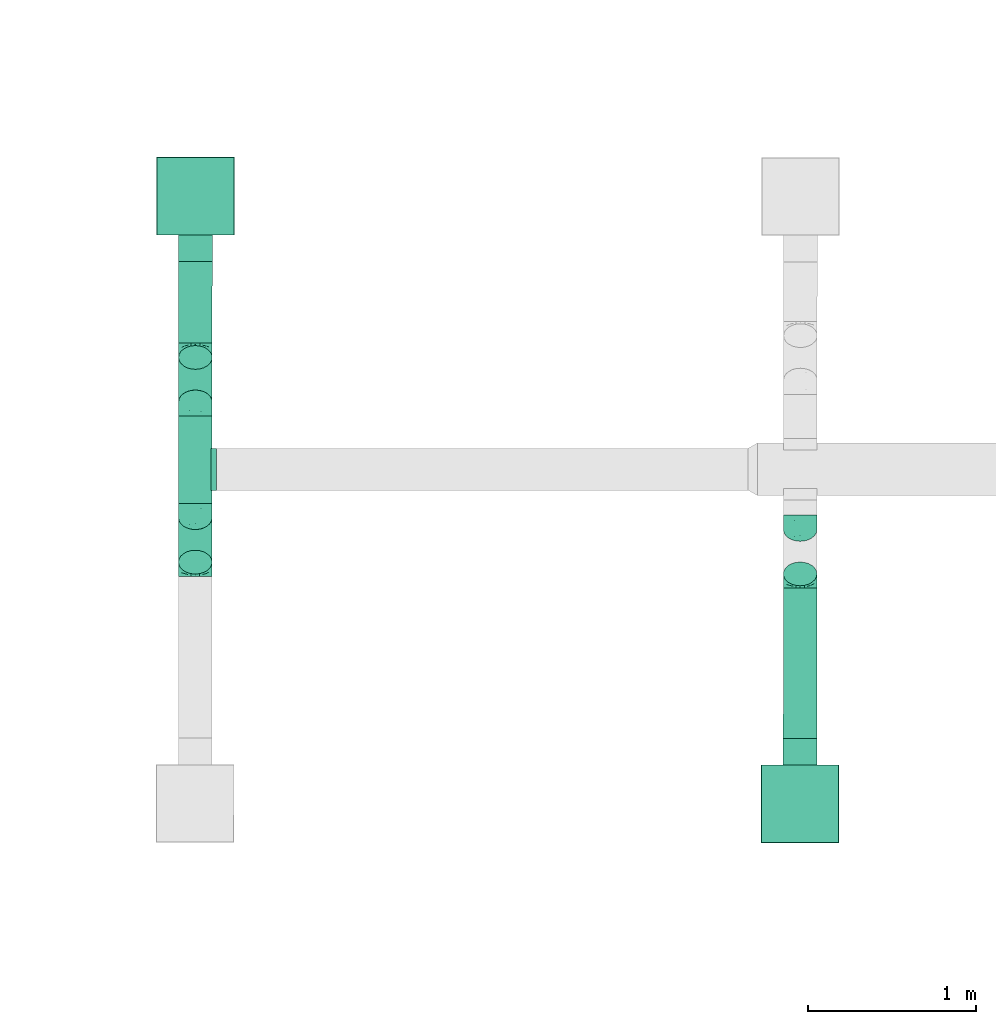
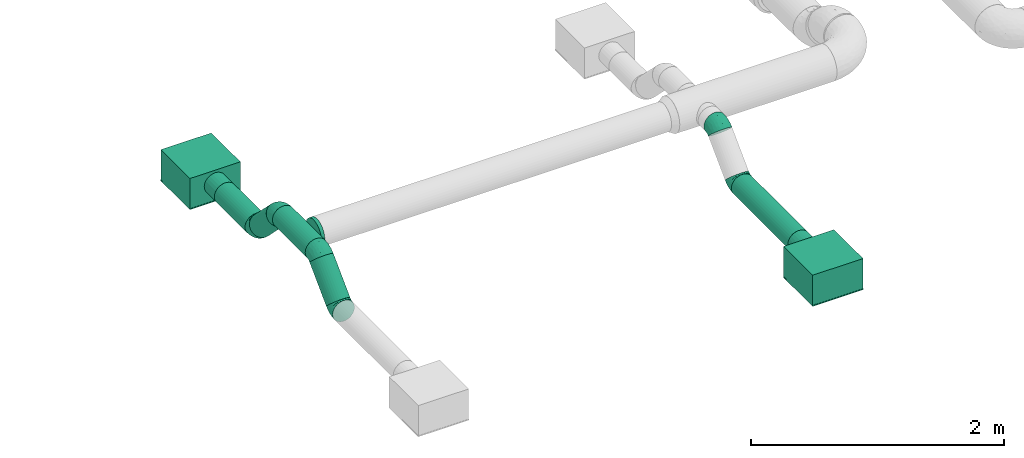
# One storey, part 8 of 63: 7 flow fittings, 5 flow segments, 2 flow terminals.
"""IFC2X3 building model written with IfcOpenShell, lengths in millimetres."""

from ifc_helpers import new_model, entity, si_unit, converted_unit, derived_unit, direction, frame, origin_with_axes, origin_2d_with_axis, place, context, subcontext, project, spatial, hollow_circle, extrude, open_shell, surface_model, source, transform, mapped, type_object, element, save


model = new_model("IFC2X3")

# Units and contexts
model_context = context("Model", 3, precision=0.01, world=frame((0.0, 4.29681676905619e-09, 0.0)), true_north=direction((4.01073788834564e-13, 1.0)))
plan_context = context("Plan", 3, precision=0.01, world=frame((0.0, 4.29681676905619e-09, 0.0)), true_north=direction((4.01073788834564e-13, 1.0)))
body_context = subcontext(model_context, "Body", "Model", "MODEL_VIEW")
ifc_project = project(units=[converted_unit("PLANEANGLEUNIT", "DEGREE", entity("IfcPositiveLengthMeasure", 0.0174532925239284), si_unit("PLANEANGLEUNIT", "RADIAN"), dimensions=[0, 0, 0, 0, 0, 0, 0]), si_unit("AREAUNIT", "SQUARE_METRE"), si_unit("LENGTHUNIT", "METRE", prefix="MILLI"), si_unit("MASSUNIT", "GRAM", prefix="KILO"), si_unit("POWERUNIT", "WATT"), si_unit("PRESSUREUNIT", "PASCAL"), si_unit("FORCEUNIT", "NEWTON", prefix="KILO"), si_unit("ELECTRICVOLTAGEUNIT", "VOLT"), si_unit("ELECTRICCURRENTUNIT", "AMPERE"), si_unit("THERMODYNAMICTEMPERATUREUNIT", "DEGREE_CELSIUS"), si_unit("TIMEUNIT", "SECOND"), si_unit("VOLUMEUNIT", "CUBIC_METRE"), derived_unit("LINEARVELOCITYUNIT", [(si_unit("LENGTHUNIT", "METRE"), 1), (si_unit("TIMEUNIT", "SECOND"), -1)]), derived_unit("VOLUMETRICFLOWRATEUNIT", [(si_unit("VOLUMEUNIT", "CUBIC_METRE"), 1), (si_unit("TIMEUNIT", "SECOND"), -1)]), derived_unit("THERMALTRANSMITTANCEUNIT", [(si_unit("POWERUNIT", "WATT"), 1), (si_unit("THERMODYNAMICTEMPERATUREUNIT", "KELVIN"), -1), (si_unit("AREAUNIT", "SQUARE_METRE"), -1)]), derived_unit("SOUNDPRESSUREUNIT", [(si_unit("PRESSUREUNIT", "PASCAL"), 1)])], contexts=[model_context, plan_context])

# Site, building, storey
site_placement = place(None, frame((0.0, -4.29681676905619e-09, 0.0), z_axis=(0.0, 0.0, 1.0), x_axis=(1.0, 0.0, 0.0)))
site = spatial("IfcSite", under=ifc_project, at=site_placement, CompositionType="ELEMENT")
building_placement = place(site_placement, frame((0.0, 4.29681676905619e-09, 0.0), z_axis=(0.0, 0.0, 1.0), x_axis=(1.0, 0.0, 0.0)))
building = spatial("IfcBuilding", under=site, at=building_placement, Name="mc-building", CompositionType="ELEMENT")
storey_placement = place(building_placement, frame((0.0, 0.0, 210900.0), z_axis=(0.0, 0.0, 1.0), x_axis=(1.0, 0.0, 0.0)))
storey = spatial("IfcBuildingStorey", under=building, at=storey_placement, Name="Nivå F", CompositionType="ELEMENT", Elevation=210900.0)

# Flow fittings
duct_fitting_type_1 = type_object("IfcDuctFittingType", Name="magicirc_elbow_short_001", PredefinedType="BEND")
shared_shape_1 = source(origin_with_axes(), body_context, "Body", "SurfaceModel", [
    surface_model("IfcShellBasedSurfaceModel", [(-49.70563, 50.0, -86.60254), (-49.70563, 25.8819, -96.59259), (-49.70563, 70.71068, -70.71068), (-49.70563, 96.59259, -25.8819), (-49.70563, 86.60254, -50.0), (-49.70563, 86.60254, 50.0), (-49.70563, 96.59259, 25.8819), (-49.70563, 25.8819, 96.59259), (-49.70563, 50.0, 86.60254), (-49.70563, 70.71068, 70.71068), (-49.70563, -25.8819, 96.59259), (-49.70563, 0.0, 100.0), (-49.70563, 100.0, 0.0), (12.37742, -29.88175, 90.64522), (37.12404, -18.70607, 89.97421), (4.68854, -11.31914, 97.51858), (-15.97928, 38.57739, 94.78597), (-33.08073, 79.86395, 64.3352), (-38.64634, 93.30051, 41.23913), (-23.56301, 62.37217, 82.35825), (22.87885, -55.23445, 71.73393), (28.07272, 6.98114, 98.51039), (7.39001, 23.69873, 99.67584), (-26.09006, 96.38443, 50.0), (16.84592, 53.44845, 96.59259), (-33.15408, 103.44845, 25.8819), (-0.20815, 70.50252, 86.60254), (-49.70563, 0.0, -100.0), (-21.98306, 11.532, -99.67584), (4.68854, -11.31915, -97.51858), (6.95764, 23.32334, -99.68416), (-15.97928, 38.57738, -94.78597), (-0.20815, 70.50252, -86.60254), (16.84592, 53.44845, -96.59259), (60.35471, -50.93633, -55.32131), (28.49827, -69.68635, -52.39492), (22.87886, -55.23445, -71.73393), (28.07272, 6.98113, -98.51039), (-49.70565, -96.59259, -25.8819), (-49.70565, -100.0, 0.0), (-49.70565, -86.60254, -50.0), (-14.85282, 85.14719, -70.71068), (-26.09007, 96.38443, -50.0), (-33.1541, 103.44846, -25.8819), (-24.86597, -97.5535, 0.0), (-6.78576, -95.77276, 0.0), (-18.13184, -91.89202, 33.47276), (-13.02349, -39.47786, 89.97421), (-18.231, -62.02139, 76.22982), (-21.41192, 11.5723, 99.68416), (-49.70565, -86.60254, 50.0), (-49.70565, -96.59259, 25.8819), (22.49479, -82.45996, 31.38069), (50.71647, -68.4272, 35.42053), (29.12437, -69.42701, 52.3949), (13.84949, -89.51313, 0.0), (34.48473, -83.25349, 0.0), (12.37743, -29.88176, -90.64522), (-13.02349, -39.47786, -89.97421), (-42.05198, 101.52241, 0.0), (-35.56351, 105.85786, 0.0), (-38.64635, 93.30051, -41.23913), (37.12406, -18.70605, -89.97421), (1.72867, -92.12319, -18.52111), (-33.08075, 79.86395, -64.3352), (-27.44224, 60.76535, -82.35825), (-24.78683, -14.914, 98.51039), (-49.70565, -70.71068, -70.71068), (-6.65981, -78.69465, -55.32131), (-24.78683, -14.91401, -98.51039), (-49.70563, -50.0, -86.60254), (-49.70563, -25.8819, -96.59259), (-49.70563, -70.71068, 70.71068), (-49.70563, -50.0, 86.60254), (35.14719, 35.1472, -100.0), (103.44846, -33.15406, 25.8819), (96.38444, -26.09004, -50.0), (53.44846, 16.84593, -96.59259), (85.14719, -14.8528, -70.71068), (70.50253, -0.20814, -86.60254), (105.85787, -35.56347, 0.0), (103.44846, -33.15406, -25.8819), (-14.85282, 85.14719, 70.71068), (85.14719, -14.8528, 70.71068), (96.38444, -26.09004, 50.0), (70.50253, -0.20814, 86.60254), (53.44846, 16.84593, 96.59259), (35.14719, 35.1472, 100.0), (-6.6598, -78.69465, 55.32131), (42.49431, -77.9055, 18.20626), (72.51983, -62.9233, 0.0), (86.56365, -51.39784, 0.0), (63.91858, -66.36329, 18.52111), (77.79861, -52.15632, 33.47277), (60.35471, -50.93634, 55.32131), (56.74699, -30.96449, 76.22981), (53.50228, -73.08841, 0.0), (-18.13182, -91.89201, -33.47277), (77.79861, -52.15632, -33.47277), (-18.23098, -62.02139, -76.22982), (42.40177, -74.21421, -31.38069), (12.52339, -84.24729, -35.42053), (25.03951, -85.13552, -18.20627), (56.747, -30.96448, -76.22982)], [open_shell([[[0, 1, 2]], [[3, 4, 2]], [[5, 6, 7]], [[7, 8, 9]], [[5, 7, 9]], [[10, 11, 7]], [[6, 12, 3]], [[13, 14, 15]], [[8, 7, 16]], [[17, 5, 9]], [[6, 5, 18]], [[19, 8, 16]], [[13, 20, 14]], [[15, 21, 22]], [[17, 23, 18]], [[16, 22, 24]], [[25, 18, 23]], [[24, 26, 16]], [[26, 19, 16]], [[8, 19, 9]], [[19, 17, 9]], [[14, 21, 15]], [[6, 18, 25]], [[17, 18, 5]], [[27, 1, 28]], [[29, 28, 30]], [[31, 28, 1]], [[0, 31, 1]], [[32, 33, 31]], [[31, 33, 30]], [[30, 28, 31]], [[34, 35, 36]], [[30, 37, 29]], [[38, 39, 40]], [[41, 42, 43]], [[44, 45, 46]], [[47, 48, 20]], [[15, 22, 49]], [[46, 50, 51]], [[46, 51, 44]], [[52, 53, 54]], [[49, 22, 16]], [[51, 39, 44]], [[46, 55, 52]], [[15, 47, 13]], [[20, 13, 47]], [[55, 46, 45]], [[55, 56, 52]], [[57, 36, 58]], [[59, 60, 43]], [[43, 42, 61]], [[62, 57, 29]], [[45, 44, 63]], [[42, 41, 64]], [[65, 64, 41]], [[64, 61, 42]], [[55, 45, 63]], [[44, 39, 38]], [[36, 57, 62]], [[58, 29, 57]], [[15, 66, 47]], [[49, 66, 15]], [[67, 68, 40]], [[29, 69, 28]], [[58, 69, 29]], [[27, 67, 1]], [[40, 2, 1]], [[2, 40, 3]], [[70, 67, 71]], [[67, 27, 71]], [[40, 1, 67]], [[40, 39, 3]], [[39, 6, 3]], [[7, 6, 39]], [[10, 7, 39]], [[72, 73, 50]], [[51, 50, 73]], [[73, 10, 51]], [[51, 10, 39]], [[74, 75, 76]], [[41, 33, 32]], [[33, 75, 74]], [[33, 41, 75]], [[77, 78, 79]], [[77, 74, 78]], [[76, 80, 81]], [[78, 74, 76]], [[76, 75, 80]], [[41, 43, 23]], [[25, 23, 43]], [[23, 24, 41]], [[82, 26, 24]], [[82, 24, 23]], [[41, 24, 75]], [[75, 83, 84]], [[83, 75, 85]], [[75, 86, 85]], [[75, 24, 86]], [[24, 87, 86]], [[43, 60, 25]], [[88, 50, 46]], [[88, 52, 54]], [[73, 48, 47]], [[72, 50, 88]], [[66, 11, 10]], [[7, 11, 49]], [[10, 73, 47]], [[17, 19, 82]], [[16, 7, 49]], [[73, 72, 48]], [[56, 89, 52]], [[59, 6, 25]], [[90, 91, 92]], [[59, 12, 6]], [[53, 93, 94]], [[66, 49, 11]], [[88, 46, 52]], [[72, 88, 48]], [[86, 21, 14]], [[94, 84, 83]], [[85, 86, 14]], [[93, 84, 94]], [[83, 85, 95]], [[14, 95, 85]], [[93, 91, 75]], [[86, 87, 21]], [[53, 92, 93]], [[60, 59, 25]], [[87, 24, 22]], [[95, 20, 94]], [[82, 19, 26]], [[84, 93, 75]], [[20, 95, 14]], [[89, 96, 92]], [[94, 83, 95]], [[20, 48, 88]], [[82, 23, 17]], [[54, 94, 20]], [[94, 54, 53]], [[88, 54, 20]], [[47, 66, 10]], [[22, 21, 87]], [[92, 53, 89]], [[53, 52, 89]], [[96, 89, 56]], [[96, 90, 92]], [[93, 92, 91]], [[91, 80, 75]], [[78, 76, 34]], [[77, 79, 62]], [[69, 71, 27]], [[4, 61, 64]], [[32, 65, 41]], [[31, 0, 65]], [[0, 2, 65]], [[33, 74, 30]], [[61, 3, 43]], [[68, 97, 40]], [[98, 81, 91]], [[97, 44, 38]], [[99, 70, 58]], [[100, 101, 35]], [[99, 67, 70]], [[40, 97, 38]], [[101, 97, 68]], [[70, 71, 58]], [[102, 55, 63]], [[99, 36, 68]], [[56, 102, 100]], [[3, 12, 59]], [[68, 67, 99]], [[32, 31, 65]], [[34, 100, 35]], [[69, 58, 71]], [[4, 64, 2]], [[62, 29, 37]], [[36, 62, 103]], [[62, 79, 103]], [[98, 76, 81]], [[74, 77, 37]], [[98, 34, 76]], [[64, 65, 2]], [[98, 91, 90]], [[101, 63, 97]], [[100, 34, 98]], [[79, 78, 103]], [[37, 30, 74]], [[36, 103, 34]], [[43, 3, 59]], [[36, 99, 58]], [[78, 34, 103]], [[35, 68, 36]], [[97, 63, 44]], [[68, 35, 101]], [[28, 69, 27]], [[62, 37, 77]], [[63, 101, 102]], [[101, 100, 102]], [[98, 96, 100]], [[55, 102, 56]], [[3, 61, 4]], [[81, 80, 91]], [[96, 98, 90]], [[96, 56, 100]]])]),
])
for number, where, z_axis, x_axis, name in (
    (1, (523302.11557, 446275.48076, 3935.01186999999), (-0.999999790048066, 0.000647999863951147, 0.0), (-0.000647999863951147, -0.999999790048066, 0.0), "magicirc_elbow_short_001"),
    (2, (523301.28092, 444986.94213, 3935.01186999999), (0.999999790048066, -0.000647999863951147, 0.0), (0.000647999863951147, 0.999999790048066, 0.0), "magicirc_elbow_short_001"),
    (3, (523301.49791, 445321.93009, 4270.0), (-0.999999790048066, 0.000647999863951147, -3.79470760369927e-19), (0.000458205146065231, 0.707106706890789, 0.707106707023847), "magicirc_elbow_short_001"),
    (4, (523301.89858, 445940.49279, 4270.0), (0.999999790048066, -0.000647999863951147, -3.79470760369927e-19), (-0.000458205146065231, -0.707106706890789, 0.707106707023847), "magicirc_elbow_short_001"),
    (5, (526901.27657, 444916.95747, 3935.01186999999), (0.999999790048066, -0.000647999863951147, 0.0), (0.000647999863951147, 0.999999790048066, 0.0), "magicirc_elbow_short_001"),
    (6, (526901.46737, 445251.94566, 4270.0), (-0.99999988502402, 0.000423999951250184, 0.00022399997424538), (0.000458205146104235, 0.707106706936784, 0.707106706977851), "magicirc_elbow_short_001"),
):
    element("IfcFlowFitting", number, at=place(storey_placement, frame(where, z_axis=z_axis, x_axis=x_axis)), inside=storey, type_object=duct_fitting_type_1, Name=name, context=body_context, shape_type="MappedRepresentation", body=[
        mapped(shared_shape_1, transform((0.0, 0.0, 0.0), scale=1.0)),
    ])
duct_fitting_type_2 = type_object("IfcDuctFittingType", Name="magicirc_tapoutlet_001", PredefinedType="CONNECTOR")
shared_shape_2 = source(origin_with_axes(), body_context, "Body", "SurfaceModel", [
    surface_model("IfcShellBasedSurfaceModel", [(25.0, 62.5, -108.25318), (25.0, 125.0, 0.0), (25.0, 32.35238, -120.74073), (25.0, -88.38835, -88.38835), (25.0, 0.0, -125.0), (25.0, -120.74073, 32.35238), (25.0, -62.5, -108.25318), (25.0, -32.35238, -120.74073), (25.0, -108.25318, -62.5), (25.0, -120.74073, -32.35238), (25.0, -125.0, 0.0), (25.0, 108.25318, -62.5), (25.0, 120.74073, -32.35238), (25.0, 120.74073, 32.35238), (25.0, 108.25318, 62.5), (25.0, 88.38835, 88.38835), (25.0, 32.35238, 120.74073), (25.0, 62.5, 108.25318), (25.0, -62.5, 108.25318), (25.0, -88.38835, 88.38835), (25.0, -108.25318, 62.5), (25.0, 0.0, 125.0), (25.0, -32.35238, 120.74073), (0.0, 0.0, 125.0), (0.0, 32.35238, 120.74073), (0.0, 62.5, 108.25318), (0.0, 88.38835, 88.38835), (0.0, 108.25318, 62.5), (0.0, 120.74073, 32.35238), (0.0, 125.0, 0.0), (0.0, 120.74073, -32.35238), (0.0, 108.25318, -62.5), (25.0, 88.38835, -88.38835), (0.0, 88.38835, -88.38835), (0.0, 0.0, -125.0), (0.0, 32.35238, -120.74073), (0.0, 62.5, -108.25318), (0.0, -32.35238, -120.74073), (0.0, -62.5, -108.25318), (0.0, -88.38835, -88.38835), (0.0, -108.25318, -62.5), (0.0, -120.74073, -32.35238), (0.0, -125.0, 0.0), (0.0, -120.74073, 32.35238), (0.0, -108.25318, 62.5), (0.0, -88.38835, 88.38835), (0.0, -62.5, 108.25318), (0.0, -32.35238, 120.74073), (-6.17869, 0.0, -125.0), (-6.17869, -32.35238, -120.74073), (-6.17869, 32.35238, -120.74073), (-6.17869, 120.74073, 32.35238), (-6.17869, 62.5, -108.25318), (-6.17869, 88.38835, -88.38835), (-6.17869, 108.25318, -62.5), (-6.17869, -125.0, 0.0), (-6.17869, -120.74073, 32.35238), (-6.17869, -88.38835, -88.38835), (-6.17869, -62.5, -108.25318), (-6.17869, -120.74073, -32.35238), (-6.17869, -108.25318, -62.5), (-6.17869, 120.74073, -32.35238), (-6.17869, 108.25318, 62.5), (-6.17869, 62.5, 108.25318), (-6.17869, 32.35238, 120.74073), (-6.17869, 88.38835, 88.38835), (-6.17869, 0.0, 125.0), (-6.17869, -108.25318, 62.5), (-6.17869, -88.38835, 88.38835), (-6.17869, -32.35238, 120.74073), (-6.17869, -62.5, 108.25318), (-6.17869, 125.0, 0.0)], [open_shell([[[0, 1, 2]], [[3, 4, 5]], [[4, 3, 6]], [[6, 7, 4]], [[8, 5, 9]], [[5, 10, 9]], [[1, 11, 12]], [[13, 14, 4]], [[4, 14, 15]], [[16, 4, 17]], [[4, 15, 17]], [[18, 4, 16]], [[19, 20, 4]], [[16, 21, 22]], [[23, 21, 16]], [[24, 16, 17]], [[23, 16, 24]], [[25, 15, 26]], [[25, 24, 17]], [[15, 25, 17]], [[27, 14, 13]], [[28, 13, 1]], [[26, 14, 27]], [[28, 27, 13]], [[29, 28, 1]], [[14, 26, 15]], [[29, 1, 12]], [[30, 12, 11]], [[29, 12, 30]], [[31, 32, 33]], [[31, 30, 11]], [[32, 31, 11]], [[2, 4, 34]], [[0, 2, 35]], [[33, 0, 36]], [[34, 35, 2]], [[0, 35, 36]], [[0, 33, 32]], [[34, 4, 7]], [[37, 7, 6]], [[34, 7, 37]], [[38, 3, 39]], [[38, 37, 6]], [[3, 38, 6]], [[40, 8, 9]], [[41, 9, 10]], [[39, 8, 40]], [[41, 40, 9]], [[42, 41, 10]], [[8, 39, 3]], [[42, 10, 5]], [[43, 5, 20]], [[42, 5, 43]], [[44, 19, 45]], [[44, 43, 20]], [[19, 44, 20]], [[46, 18, 22]], [[47, 22, 21]], [[45, 18, 46]], [[47, 46, 22]], [[23, 47, 21]], [[18, 45, 19]], [[8, 3, 5]], [[10, 9, 5]], [[19, 4, 18]], [[16, 22, 18]], [[1, 13, 4]], [[2, 1, 4]], [[32, 11, 1]], [[32, 1, 0]], [[4, 6, 7]], [[4, 14, 17]], [[17, 14, 15]], [[4, 16, 18]], [[4, 20, 5]], [[14, 4, 13]], [[17, 16, 4]], [[4, 19, 20]], [[4, 18, 19]], [[21, 22, 16]], [[4, 1, 13]], [[48, 49, 50]], [[50, 51, 52]], [[53, 51, 54]], [[52, 51, 53]], [[50, 55, 56]], [[57, 55, 58]], [[50, 49, 58]], [[59, 55, 60]], [[57, 60, 55]], [[58, 55, 50]], [[61, 54, 51]], [[62, 51, 50]], [[63, 62, 50]], [[63, 50, 64]], [[65, 62, 63]], [[66, 64, 50]], [[56, 67, 50]], [[67, 68, 50]], [[69, 66, 70]], [[68, 70, 66]], [[50, 68, 66]], [[71, 61, 51]], [[66, 23, 24]], [[64, 24, 25]], [[66, 24, 64]], [[63, 26, 65]], [[63, 64, 25]], [[26, 63, 25]], [[62, 27, 28]], [[51, 28, 29]], [[65, 27, 62]], [[51, 62, 28]], [[71, 51, 29]], [[27, 65, 26]], [[71, 29, 30]], [[61, 30, 31]], [[71, 30, 61]], [[54, 33, 53]], [[54, 61, 31]], [[33, 54, 31]], [[35, 34, 48]], [[36, 35, 50]], [[53, 36, 52]], [[48, 50, 35]], [[36, 50, 52]], [[36, 53, 33]], [[48, 34, 37]], [[49, 37, 38]], [[48, 37, 49]], [[58, 39, 57]], [[58, 49, 38]], [[39, 58, 38]], [[60, 40, 41]], [[59, 41, 42]], [[57, 40, 60]], [[59, 60, 41]], [[55, 59, 42]], [[40, 57, 39]], [[55, 42, 43]], [[56, 43, 44]], [[55, 43, 56]], [[67, 45, 68]], [[67, 56, 44]], [[45, 67, 44]], [[70, 46, 47]], [[69, 47, 23]], [[68, 46, 70]], [[69, 70, 47]], [[66, 69, 23]], [[46, 68, 45]]])]),
])
flow_fitting_placement = place(storey_placement, frame((523401.66171, 445574.77905, 4270.0), z_axis=(0.0, 0.0, -1.0), x_axis=(0.999999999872, 1.5999999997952e-05, 0.0)))
element("IfcFlowFitting", 7, at=flow_fitting_placement, inside=storey, type_object=duct_fitting_type_2, Name="magicirc_tapoutlet_001", context=body_context, shape_type="MappedRepresentation", body=[
    mapped(shared_shape_2, transform((0.0, 0.0, 0.0), scale=1.0)),
])

# Flow segments
duct_segment_type = type_object("IfcDuctSegmentType", Name="KK002T - Spiro kanaler, Forsinket stål, korte bend", PredefinedType="RIGIDSEGMENT")
shared_shape_3 = source(origin_with_axes(), body_context, "Body", "SweptSolid", [
    extrude(hollow_circle(Radius=100.0, WallThickness=2.0, at=origin_2d_with_axis()), frame((0.0, 0.0, 0.0), z_axis=(1.0, 0.0, 0.0), x_axis=(0.0, 1.0, 0.0)), (0.0, 0.0, 1.0), 485.2),
])
flow_segment_1_placement = place(storey_placement, frame((523302.46205, 446810.39382, 3935.01186999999), z_axis=(0.0, 0.0, 1.0), x_axis=(-0.000647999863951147, -0.999999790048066, 0.0)))
element("IfcFlowSegment", 8, at=flow_segment_1_placement, inside=storey, type_object=duct_segment_type, Name="KK002T - Spiro kanaler, Forsinket stål, korte bend", context=body_context, shape_type="MappedRepresentation", body=[
    mapped(shared_shape_3, transform((0.0, 0.0, 0.0), scale=1.0)),
])
shared_shape_4 = source(origin_with_axes(), body_context, "Body", "SweptSolid", [
    extrude(hollow_circle(Radius=100.0, WallThickness=2.0, at=origin_2d_with_axis()), frame((0.0, 0.0, 0.0), z_axis=(1.0, 0.0, 0.0), x_axis=(0.0, 1.0, 0.0)), (0.0, 0.0, 1.0), 374.3),
])
for number, where, z_axis, x_axis in (
    (9, (523302.0928, 446240.33358, 3970.15906999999), (0.00045799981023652, 0.707106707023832, 0.707106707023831), (-0.000457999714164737, -0.707106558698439, 0.707106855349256)),
    (10, (523301.30369, 445022.08931, 3970.15906999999), (-0.00045799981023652, -0.707106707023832, 0.707106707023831), (0.000457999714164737, 0.707106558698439, 0.707106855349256)),
):
    element("IfcFlowSegment", number, at=place(storey_placement, frame(where, z_axis=z_axis, x_axis=x_axis)), inside=storey, type_object=duct_segment_type, Name="KK002T - Spiro kanaler, Forsinket stål, korte bend", context=body_context, shape_type="MappedRepresentation", body=[
        mapped(shared_shape_4, transform((0.0, 0.0, 0.0), scale=1.0)),
    ])
shared_shape_5 = source(origin_with_axes(), body_context, "Body", "SweptSolid", [
    extrude(hollow_circle(Radius=100.0, WallThickness=2.0, at=origin_2d_with_axis()), frame((0.0, 0.0, 0.0), z_axis=(1.0, 0.0, 0.0), x_axis=(0.0, 1.0, 0.0)), (0.0, 0.0, 1.0), 519.2),
])
flow_segment_2_placement = place(storey_placement, frame((523301.53011, 445371.63572, 4270.0), z_axis=(0.0, 0.0, 1.0), x_axis=(0.000647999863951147, 0.999999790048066, 0.0)))
element("IfcFlowSegment", 11, at=flow_segment_2_placement, inside=storey, type_object=duct_segment_type, Name="KK002T - Spiro kanaler, Forsinket stål, korte bend", context=body_context, shape_type="MappedRepresentation", body=[
    mapped(shared_shape_5, transform((0.0, 0.0, 0.0), scale=1.0)),
])
shared_shape_6 = source(origin_with_axes(), body_context, "Body", "SweptSolid", [
    extrude(hollow_circle(Radius=100.0, WallThickness=2.0, at=origin_2d_with_axis()), frame((0.0, 0.0, 0.0), z_axis=(1.0, 0.0, 0.0), x_axis=(0.0, 1.0, 0.0)), (0.0, 0.0, 1.0), 893.6),
])
flow_segment_3_placement = place(storey_placement, frame((526900.66553, 443973.6217, 3935.01186999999), z_axis=(0.0, 0.0, 1.0), x_axis=(0.000647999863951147, 0.999999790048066, 0.0)))
element("IfcFlowSegment", 12, at=flow_segment_3_placement, inside=storey, type_object=duct_segment_type, Name="KK002T - Spiro kanaler, Forsinket stål, korte bend", context=body_context, shape_type="MappedRepresentation", body=[
    mapped(shared_shape_6, transform((0.0, 0.0, 0.0), scale=1.0)),
])

# Flow terminals
air_terminal_type = type_object("IfcAirTerminalType", Name="NS19-H-S-2-200 - 4-way", PredefinedType="NOTDEFINED")
shared_shape_7 = source(origin_with_axes(), body_context, "Body", "SurfaceModel", [
    surface_model("IfcShellBasedSurfaceModel", [(-231.99999, 231.99999, 0.0), (-231.99999, -231.99999, 0.0), (231.99999, -231.99999, 0.0), (231.99999, 231.99999, 0.0), (231.99999, 231.99999, -10.0), (231.99999, -231.99999, -10.0), (-231.99999, -231.99999, -10.0), (-231.99999, 231.99999, -10.0), (-230.0, 230.0, 289.99999), (-230.0, -230.0, 289.99999), (230.0, -230.0, 289.99999), (230.0, 230.0, 289.99999), (230.0, 230.0, 0.0), (230.0, -230.0, 0.0), (-230.0, -230.0, 0.0), (-230.0, 230.0, 0.0), (-230.0, 50.0, 78.39746), (-230.0, 70.71068, 94.28932), (-230.0, 49.9, 78.57067), (-230.0, 25.83014, 68.6006), (-230.0, 0.0, 65.2), (-230.0, 25.8819, 68.40742), (-230.0, 0.0, 65.0), (-230.0, 70.56926, 94.43075), (-230.0, 96.59259, 139.1181), (-230.0, 99.8, 164.99999), (-230.0, 96.39939, 139.16986), (-230.0, 100.0, 164.99999), (-230.0, 86.60254, 115.0), (-230.0, 86.42934, 115.1), (-230.0, -25.83014, 68.6006), (-230.0, -25.8819, 68.40742), (-230.0, -49.9, 78.57067), (-230.0, -70.71068, 94.28932), (-230.0, -50.0, 78.39746), (-230.0, -70.56926, 94.43075), (-230.0, -86.42934, 115.1), (-230.0, -86.60254, 115.0), (-230.0, -96.39939, 139.16986), (-230.0, -96.59259, 139.1181), (-230.0, -99.8, 164.99999), (-230.0, -100.0, 164.99999), (-230.0, 96.59259, 190.8819), (-230.0, 96.39939, 190.83014), (-230.0, 86.42934, 214.9), (-230.0, 86.60254, 214.99999), (-230.0, 70.56926, 235.56925), (-230.0, 70.71068, 235.71069), (-230.0, 50.0, 251.60254), (-230.0, 49.9, 251.42933), (-230.0, 25.83014, 261.3994), (-230.0, 25.8819, 261.59259), (-230.0, 0.0, 264.80001), (-230.0, 0.0, 264.99999), (-230.0, -86.60254, 214.99999), (-230.0, -86.42934, 214.9), (-230.0, -70.71068, 235.71069), (-230.0, -70.56926, 235.56925), (-230.0, -96.59259, 190.8819), (-230.0, -96.39939, 190.83014), (-230.0, -25.83014, 261.3994), (-230.0, -25.8819, 261.59259), (-230.0, -49.9, 251.42933), (-230.0, -50.0, 251.60254), (-390.0, 50.0, 251.60254), (-390.0, 70.71068, 235.71069), (-390.0, 49.9, 251.42933), (-390.0, 25.83014, 261.3994), (-390.0, 0.0, 264.80001), (-390.0, 25.8819, 261.59259), (-390.0, 0.0, 264.99999), (-390.0, 70.56926, 235.56925), (-390.0, 96.59259, 190.8819), (-390.0, 99.8, 164.99999), (-390.0, 96.39939, 190.83014), (-390.0, 100.0, 164.99999), (-390.0, 86.60254, 214.99999), (-390.0, 86.42934, 214.9), (-390.0, -25.83014, 261.3994), (-390.0, -25.8819, 261.59259), (-390.0, -49.9, 251.42933), (-390.0, -70.71068, 235.71069), (-390.0, -50.0, 251.60254), (-390.0, -70.56926, 235.56925), (-390.0, -86.42934, 214.9), (-390.0, -86.60254, 214.99999), (-390.0, -96.39939, 190.83014), (-390.0, -96.59259, 190.8819), (-390.0, -99.8, 164.99999), (-390.0, -100.0, 164.99999), (-390.0, 96.59259, 139.1181), (-390.0, 96.39939, 139.16986), (-390.0, 86.42934, 115.1), (-390.0, 86.60254, 115.0), (-390.0, 70.56926, 94.43075), (-390.0, 70.71068, 94.28932), (-390.0, 50.0, 78.39746), (-390.0, 49.9, 78.57067), (-390.0, 25.83014, 68.6006), (-390.0, 25.8819, 68.40742), (-390.0, 0.0, 65.2), (-390.0, 0.0, 65.0), (-390.0, -86.60254, 115.0), (-390.0, -86.42934, 115.1), (-390.0, -70.71068, 94.28932), (-390.0, -70.56926, 94.43075), (-390.0, -96.59259, 139.1181), (-390.0, -96.39939, 139.16986), (-390.0, -25.83014, 68.6006), (-390.0, -25.8819, 68.40742), (-390.0, -49.9, 78.57067), (-390.0, -50.0, 78.39746)], [open_shell([[[0, 1, 2]], [[2, 3, 0]], [[4, 5, 6]], [[6, 7, 4]], [[2, 1, 6]], [[6, 5, 2]], [[3, 2, 5]], [[5, 4, 3]], [[0, 3, 4]], [[4, 7, 0]], [[1, 0, 7]], [[7, 6, 1]], [[8, 9, 10]], [[10, 11, 8]], [[12, 13, 14]], [[14, 15, 12]], [[10, 9, 13]], [[14, 13, 9]], [[11, 10, 12]], [[13, 12, 10]], [[8, 11, 15]], [[12, 15, 11]], [[9, 8, 14]], [[15, 14, 8]], [[16, 17, 18]], [[16, 18, 19]], [[20, 21, 19]], [[21, 20, 22]], [[19, 21, 16]], [[18, 17, 23]], [[24, 25, 26]], [[25, 24, 27]], [[24, 26, 28]], [[23, 28, 29]], [[28, 23, 17]], [[29, 28, 26]], [[22, 30, 31]], [[31, 30, 32]], [[33, 34, 35]], [[32, 34, 31]], [[32, 35, 34]], [[22, 20, 30]], [[36, 37, 33]], [[37, 36, 38]], [[36, 33, 35]], [[39, 38, 40]], [[38, 39, 37]], [[39, 40, 41]], [[27, 42, 43]], [[43, 42, 44]], [[44, 45, 46]], [[45, 44, 42]], [[46, 45, 47]], [[47, 48, 49]], [[49, 48, 50]], [[50, 51, 52]], [[51, 50, 48]], [[52, 51, 53]], [[49, 46, 47]], [[54, 55, 56]], [[56, 55, 57]], [[55, 54, 58]], [[41, 59, 58]], [[58, 59, 55]], [[41, 40, 59]], [[60, 53, 61]], [[60, 61, 62]], [[57, 63, 56]], [[57, 62, 63]], [[63, 62, 61]], [[52, 53, 60]], [[43, 25, 27]], [[64, 65, 66]], [[64, 66, 67]], [[68, 69, 67]], [[69, 68, 70]], [[67, 69, 64]], [[66, 65, 71]], [[72, 73, 74]], [[73, 72, 75]], [[72, 74, 76]], [[71, 76, 77]], [[76, 71, 65]], [[77, 76, 74]], [[70, 78, 79]], [[79, 78, 80]], [[81, 82, 83]], [[80, 82, 79]], [[80, 83, 82]], [[70, 68, 78]], [[84, 85, 81]], [[85, 84, 86]], [[84, 81, 83]], [[87, 86, 88]], [[86, 87, 85]], [[87, 88, 89]], [[75, 90, 91]], [[91, 90, 92]], [[92, 93, 94]], [[93, 92, 90]], [[94, 93, 95]], [[95, 96, 97]], [[97, 96, 98]], [[98, 99, 100]], [[99, 98, 96]], [[100, 99, 101]], [[97, 94, 95]], [[102, 103, 104]], [[104, 103, 105]], [[103, 102, 106]], [[89, 107, 106]], [[106, 107, 103]], [[89, 88, 107]], [[108, 101, 109]], [[108, 109, 110]], [[105, 111, 104]], [[105, 110, 111]], [[111, 110, 109]], [[100, 101, 108]], [[91, 73, 75]], [[39, 106, 102]], [[104, 37, 102]], [[34, 111, 109]], [[104, 111, 33]], [[31, 109, 101]], [[106, 41, 89]], [[106, 39, 41]], [[102, 37, 39]], [[104, 33, 37]], [[34, 33, 111]], [[109, 31, 34]], [[101, 22, 31]], [[21, 99, 96]], [[95, 16, 96]], [[28, 93, 90]], [[95, 93, 17]], [[24, 90, 75]], [[99, 21, 22]], [[96, 16, 21]], [[95, 17, 16]], [[93, 28, 17]], [[24, 28, 90]], [[75, 27, 24]], [[99, 22, 101]], [[75, 72, 42]], [[48, 64, 69]], [[64, 47, 65]], [[51, 69, 70]], [[72, 45, 42]], [[42, 27, 75]], [[76, 47, 45]], [[76, 65, 47]], [[47, 64, 48]], [[69, 51, 48]], [[76, 45, 72]], [[70, 53, 51]], [[61, 79, 82]], [[81, 63, 82]], [[54, 85, 87]], [[81, 85, 56]], [[58, 87, 89]], [[79, 61, 53]], [[82, 63, 61]], [[81, 56, 63]], [[85, 54, 56]], [[58, 54, 87]], [[89, 41, 58]], [[79, 53, 70]], [[103, 107, 38]], [[103, 36, 105]], [[108, 110, 32]], [[35, 110, 105]], [[100, 108, 30]], [[88, 40, 107]], [[40, 38, 107]], [[38, 36, 103]], [[36, 35, 105]], [[110, 35, 32]], [[32, 30, 108]], [[30, 20, 100]], [[97, 98, 19]], [[97, 18, 94]], [[91, 92, 29]], [[23, 92, 94]], [[73, 91, 26]], [[20, 19, 98]], [[19, 18, 97]], [[18, 23, 94]], [[23, 29, 92]], [[91, 29, 26]], [[26, 25, 73]], [[100, 20, 98]], [[43, 74, 73]], [[67, 66, 49]], [[71, 46, 66]], [[68, 67, 50]], [[43, 44, 74]], [[73, 25, 43]], [[44, 46, 77]], [[46, 71, 77]], [[49, 66, 46]], [[49, 50, 67]], [[74, 44, 77]], [[50, 52, 68]], [[80, 78, 60]], [[80, 62, 83]], [[86, 84, 55]], [[57, 84, 83]], [[88, 86, 59]], [[52, 60, 78]], [[60, 62, 80]], [[62, 57, 83]], [[57, 55, 84]], [[86, 55, 59]], [[59, 40, 88]], [[68, 52, 78]]])]),
])
for number, where, z_axis, x_axis in (
    (13, (523302.71469, 447200.42181, 3770.0), (0.0, 0.0, 1.0), (0.000647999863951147, 0.999999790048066, 0.0)),
    (14, (526900.41289, 443583.59371, 3770.0), (0.0, 0.0, 1.0), (-0.000647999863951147, -0.999999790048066, 0.0)),
):
    element("IfcFlowTerminal", number, at=place(storey_placement, frame(where, z_axis=z_axis, x_axis=x_axis)), inside=storey, type_object=air_terminal_type, Name="NS19-H-S-2-200 - 4-way", context=body_context, shape_type="MappedRepresentation", body=[
        mapped(shared_shape_7, transform((0.0, 0.0, 0.0), scale=1.0)),
    ])

save(model, "model.ifc")
